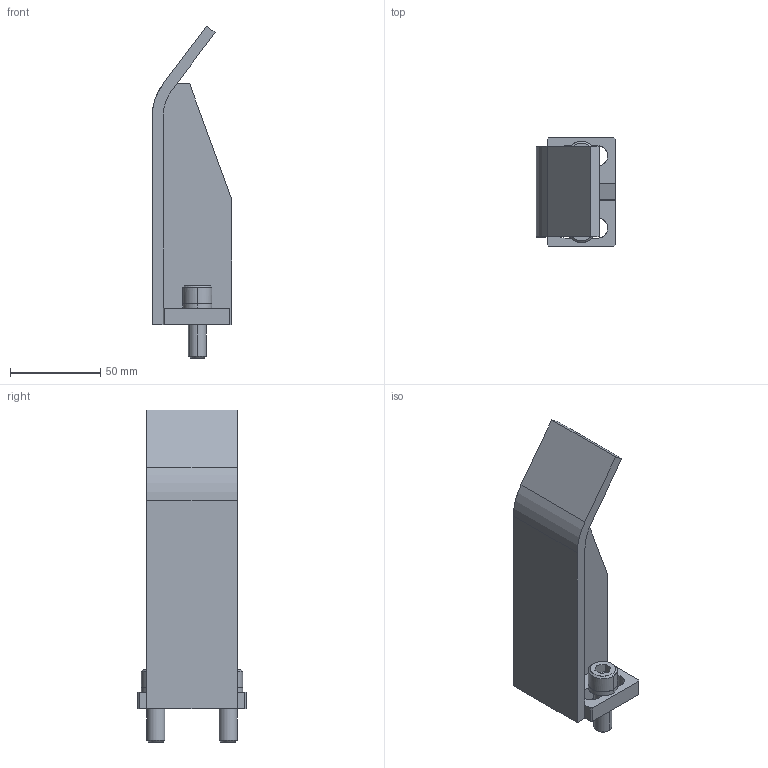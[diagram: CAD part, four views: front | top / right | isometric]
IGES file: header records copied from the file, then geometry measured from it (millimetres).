
Global section: file name: E:\UnigraphicsGraphicData\MISUMI_PRESS-PARTS\IGES\3d_nstfb-125-m10_01637_r00.igs; native system: NX V5.0; preprocessor: UGS NX IGES V5.0; author: MISUMI; date: 20110105.162131; units: millimetre
Bounding box: 44 x 60 x 183.5 mm (x, y, z)
Surface area: 37752.1 mm2 (no closed solid volume)
Topology: 0 solids, 0 shells, 83 faces, 516 edges, 516 vertices
Faces by surface type: bspline 83
